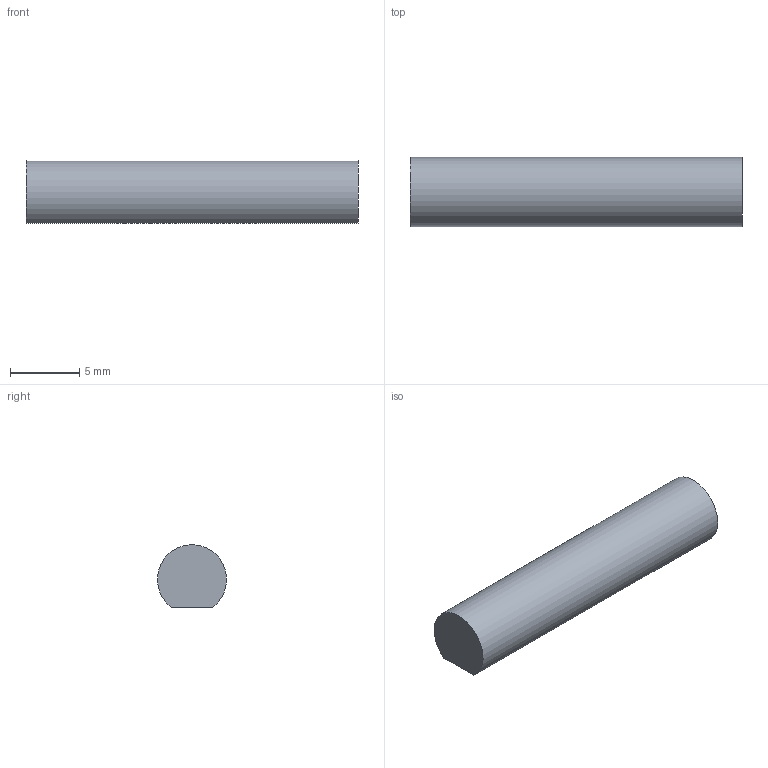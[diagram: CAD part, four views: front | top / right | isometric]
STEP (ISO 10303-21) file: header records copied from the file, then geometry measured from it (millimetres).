
FILE_DESCRIPTION(('Open CASCADE Model'),'2;1');
FILE_NAME('Open CASCADE Shape Model','2026-10-06T03:35:42',('Author'),( 'Open CASCADE'),'Open CASCADE STEP processor 7.8','Open CASCADE 7.8' ,'Unknown');
FILE_SCHEMA(('AUTOMOTIVE_DESIGN { 1 0 10303 214 1 1 1 1 }'));
Length unit declared in the file: millimetre
Products named in the file (1): Open CASCADE STEP translator 7.8 3
Bounding box: 24 x 4.99 x 4.49 mm (x, y, z)
Volume: 446.7 mm3; surface area: 409 mm2
Topology: 1 solids, 1 shells, 4 faces, 6 edges, 4 vertices
Faces by surface type: plane 3, cylinder 1
Entity records: 183 total; most frequent: CARTESIAN_POINT 33, DIRECTION 29, LINE 14, VECTOR 14, ORIENTED_EDGE 12, PCURVE 12, DEFINITIONAL_REPRESENTATION 12, AXIS2_PLACEMENT_3D 7
